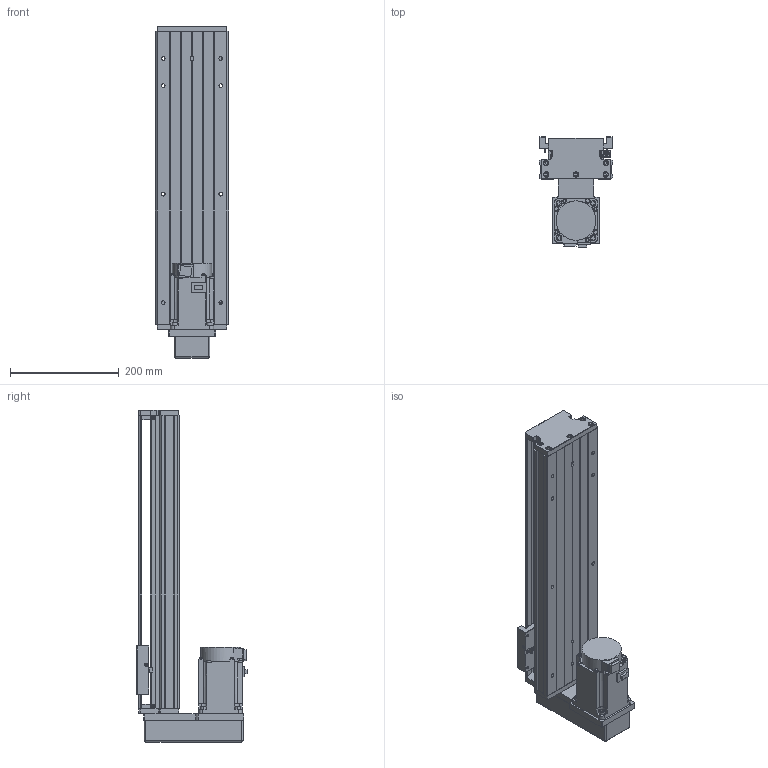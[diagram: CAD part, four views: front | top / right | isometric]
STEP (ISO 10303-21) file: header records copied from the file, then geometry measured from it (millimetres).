
FILE_DESCRIPTION (( 'STEP AP203' ), '1' );
FILE_NAME ('KTH130-400-BM-M75-C4.step', '2023-06-30T04:37:22', ( '微软用户' ), ( '微软中国' ), 'SwSTEP 2.0', 'SolidWorks 2020', '' );
FILE_SCHEMA (( 'CONFIG_CONTROL_DESIGN' ));
Length unit declared in the file: millimetre
Products named in the file (18): す晦芛蹟隊 M3℅5; GBT 70.2-M3¡Á5_M3¡Á6; GBT 70.3-M3℅8; GTH14-001_400; CTHA60-017; hg-kn73j_-s100; KTH130-002_KTH130-002; EE_SX911P_R; CTHA86-015-3_CTHA86-015-4; KTH130-004; CTHA60-016; CTHA86-035; KTH130-005; GBT 70.1-M3℅5; KTH130-400-BM-M75-C4; GB1155-6X6; GBT77-2000 M3×3; GBT70.1 M5℅16
Assembly tree (49 placements, depth 2):
  KTH130-400-BM-M75-C4
    GTH14-001_400
    KTH130-002_KTH130-002
    KTH130-004
    KTH130-005
    GB1155-6X6  x2
    GBT70.1 M5℅16  x10
    GBT 70.2-M3¡Á5_M3¡Á6  x4
    CTHA60-017  x3
    EE_SX911P_R  x3
    CTHA60-016  x2
    GBT 70.1-M3℅5  x6
    GBT77-2000 M3×3  x6
    す晦芛蹟隊 M3℅5  x2
    GBT 70.3-M3℅8  x4
    hg-kn73j_-s100
    CTHA86-015-3_CTHA86-015-4
    CTHA86-035
Bounding box: 135 x 202.8 x 612 mm (x, y, z)
Volume: 4440867.6 mm3; surface area: 643489.2 mm2
Topology: 52 solids, 52 shells, 2182 faces, 5292 edges, 3311 vertices
Faces by surface type: plane 1206, cylinder 622, cone 238, torus 100, sphere 16
Entity records: 39637 total; most frequent: CARTESIAN_POINT 6672, DIRECTION 6517, ORIENTED_EDGE 6088, EDGE_CURVE 3044, AXIS2_PLACEMENT_3D 2274, LINE 1969, VECTOR 1969, VERTEX_POINT 1945
